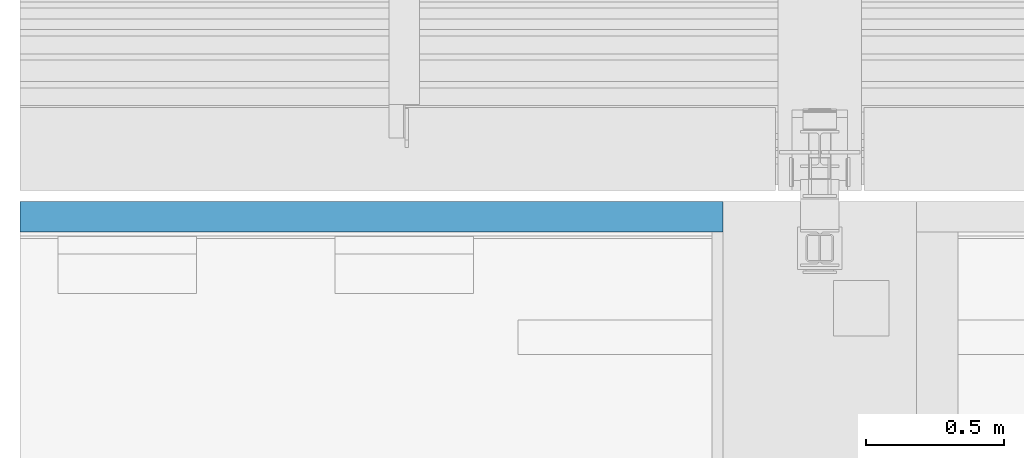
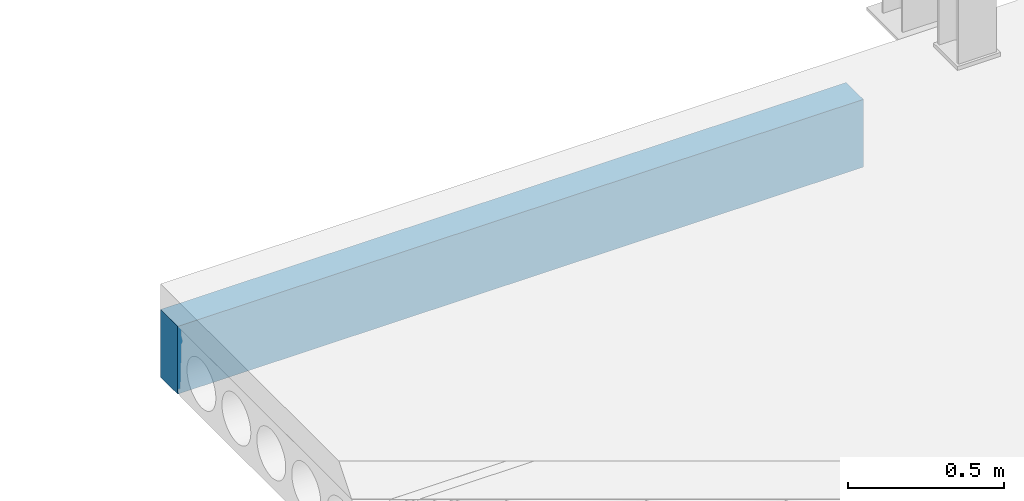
# One storey, part 33 of 34: 1 slab.
"""IFC2X3 building model written with IfcOpenShell, lengths in millimetres."""

from ifc_helpers import new_model, entity, si_unit, converted_unit, derived_unit, direction, frame, origin_with_axes, place, context, subcontext, project, spatial, faceted_brep, type_object, element, save


model = new_model("IFC2X3")

# Units and contexts
model_context = context("Model", 3, precision=0.01, world=frame((0.0, 4.29681676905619e-09, 0.0)), true_north=direction((4.01073788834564e-13, 1.0)))
plan_context = context("Plan", 3, precision=0.01, world=frame((0.0, 4.29681676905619e-09, 0.0)), true_north=direction((4.01073788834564e-13, 1.0)))
body_context = subcontext(model_context, "Body", "Model", "MODEL_VIEW")
ifc_project = project(units=[converted_unit("PLANEANGLEUNIT", "DEGREE", entity("IfcPositiveLengthMeasure", 0.0174532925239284), si_unit("PLANEANGLEUNIT", "RADIAN"), dimensions=[0, 0, 0, 0, 0, 0, 0]), si_unit("AREAUNIT", "SQUARE_METRE"), si_unit("LENGTHUNIT", "METRE", prefix="MILLI"), si_unit("MASSUNIT", "GRAM", prefix="KILO"), si_unit("POWERUNIT", "WATT"), si_unit("PRESSUREUNIT", "PASCAL"), si_unit("FORCEUNIT", "NEWTON", prefix="KILO"), si_unit("ELECTRICVOLTAGEUNIT", "VOLT"), si_unit("ELECTRICCURRENTUNIT", "AMPERE"), si_unit("THERMODYNAMICTEMPERATUREUNIT", "DEGREE_CELSIUS"), si_unit("TIMEUNIT", "SECOND"), si_unit("VOLUMEUNIT", "CUBIC_METRE"), derived_unit("LINEARVELOCITYUNIT", [(si_unit("LENGTHUNIT", "METRE"), 1), (si_unit("TIMEUNIT", "SECOND"), -1)]), derived_unit("VOLUMETRICFLOWRATEUNIT", [(si_unit("VOLUMEUNIT", "CUBIC_METRE"), 1), (si_unit("TIMEUNIT", "SECOND"), -1)]), derived_unit("THERMALTRANSMITTANCEUNIT", [(si_unit("POWERUNIT", "WATT"), 1), (si_unit("THERMODYNAMICTEMPERATUREUNIT", "KELVIN"), -1), (si_unit("AREAUNIT", "SQUARE_METRE"), -1)]), derived_unit("SOUNDPRESSUREUNIT", [(si_unit("PRESSUREUNIT", "PASCAL"), 1)])], contexts=[model_context, plan_context])

# Site, building, storey
site_placement = place(None, frame((0.0, -4.29681676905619e-09, 0.0), z_axis=(0.0, 0.0, 1.0), x_axis=(1.0, 0.0, 0.0)))
site = spatial("IfcSite", under=ifc_project, at=site_placement, Name="Gardermoen", CompositionType="ELEMENT")
building_placement = place(site_placement, frame((0.0, 4.29681676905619e-09, 0.0), z_axis=(0.0, 0.0, 1.0), x_axis=(1.0, 0.0, 0.0)))
building = spatial("IfcBuilding", under=site, at=building_placement, Name="TH", CompositionType="ELEMENT")
storey_placement = place(building_placement, origin_with_axes())
storey = spatial("IfcBuildingStorey", under=building, at=storey_placement, Name="F", CompositionType="ELEMENT", Elevation=0.0)

# Slab
slab_type = type_object("IfcSlabType", Name="265*110", PredefinedType="NOTDEFINED")
slab_placement = place(storey_placement, frame((897649.999531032, 484809.9965625, 209897.5), z_axis=(6.61744490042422e-24, 0.0, 1.0), x_axis=(-1.0, 0.0, 6.61744490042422e-24)))
element("IfcSlab", 1, at=slab_placement, inside=storey, type_object=slab_type, Name="PÅSTØP", ObjectType="265*110", PredefinedType="FLOOR", context=body_context, shape_type="Brep", body=[
    faceted_brep([(1.24280340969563e-05, 110.000938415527, -132.5), (1.24280340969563e-05, 110.000938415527, 132.5), (0.0, 0.0, 132.5), (0.0, 0.0, -132.5), (2538.09336246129, -3.37515553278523e-07, 132.5), (2538.09336246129, -3.37515553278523e-07, -132.5), (2538.09336246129, 110.00065115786, -132.5), (2538.09336246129, 110.00065115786, 132.5)], [[[0, 1, 2, 3]], [[4, 5, 3, 2]], [[6, 7, 1, 0]], [[5, 6, 0, 3]], [[7, 4, 2, 1]], [[7, 6, 5, 4]]], orient=[[False], [False], [False], [False], [False], [False]]),
])

save(model, "model.ifc")
